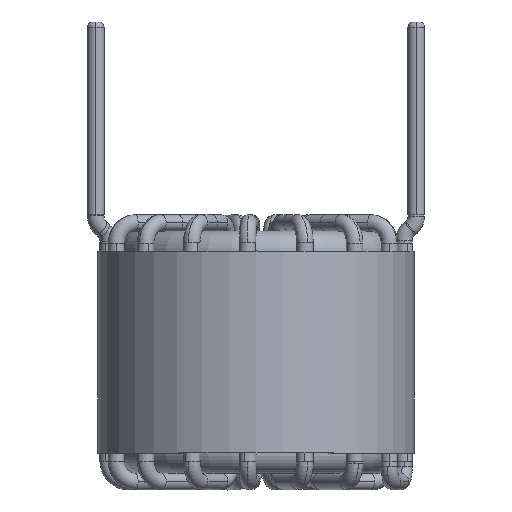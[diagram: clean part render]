
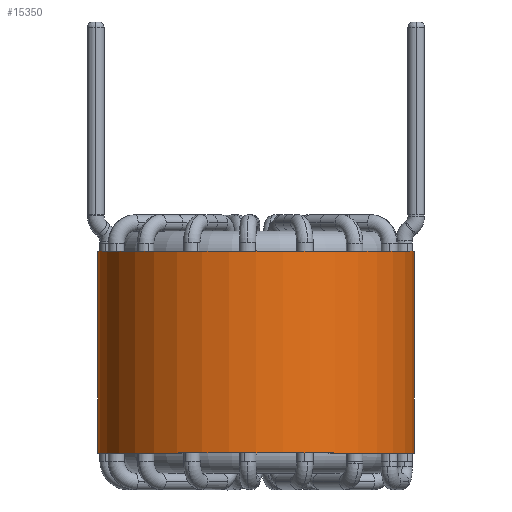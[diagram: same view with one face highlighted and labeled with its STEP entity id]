
A CAD part, top view. The second image highlights one B-rep face of the part: STEP entity #15350.
In plain terms, the highlighted cylindrical face has radius 15.68 mm (diameter 31.36 mm), a partial arc.
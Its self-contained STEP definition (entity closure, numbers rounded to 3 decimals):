
#132 = FACE_OUTER_BOUND ( 'NONE', #12714, .T. ) ;
#2018 = CYLINDRICAL_SURFACE ( 'NONE', #22719, 15.68 ) ;
#2244 = VECTOR ( 'NONE', #9147, 1000. ) ;
#3083 = EDGE_CURVE ( 'NONE', #16627, #20388, #6889, .T. ) ;
#4100 = CARTESIAN_POINT ( 'NONE',  ( 0., 0., 10. ) ) ;
#4258 = DIRECTION ( 'NONE',  ( 0., 0., 1. ) ) ;
#4950 = EDGE_CURVE ( 'NONE', #20388, #12895, #9887, .T. ) ;
#5064 = AXIS2_PLACEMENT_3D ( 'NONE', #4100, #4258, #18254 ) ;
#6467 = CARTESIAN_POINT ( 'NONE',  ( 0., 0., -10. ) ) ;
#6590 = ORIENTED_EDGE ( 'NONE', *, *, #24301, .F. ) ;
#6889 = LINE ( 'NONE', #9261, #20353 ) ;
#9147 = DIRECTION ( 'NONE',  ( 0., 0., -1. ) ) ;
#9261 = CARTESIAN_POINT ( 'NONE',  ( -15.68, 0., 10. ) ) ;
#9447 = DIRECTION ( 'NONE',  ( 0., 0., -1. ) ) ;
#9477 = DIRECTION ( 'NONE',  ( -1., 0., 0. ) ) ;
#9887 = CIRCLE ( 'NONE', #11669, 15.68 ) ;
#10778 = EDGE_CURVE ( 'NONE', #16627, #17934, #15163, .T. ) ;
#11669 = AXIS2_PLACEMENT_3D ( 'NONE', #6467, #20578, #18376 ) ;
#12714 = EDGE_LOOP ( 'NONE', ( #6590, #25849, #14164, #20935 ) ) ;
#12895 = VERTEX_POINT ( 'NONE', #13518 ) ;
#13336 = CARTESIAN_POINT ( 'NONE',  ( 0., 0., 10. ) ) ;
#13518 = CARTESIAN_POINT ( 'NONE',  ( 15.68, 0., -10. ) ) ;
#14164 = ORIENTED_EDGE ( 'NONE', *, *, #3083, .T. ) ;
#14343 = CARTESIAN_POINT ( 'NONE',  ( 15.68, 0., 10. ) ) ;
#15163 = CIRCLE ( 'NONE', #5064, 15.68 ) ;
#15350 = ADVANCED_FACE ( 'NONE', ( #132 ), #2018, .T. ) ;
#16627 = VERTEX_POINT ( 'NONE', #23642 ) ;
#17203 = CARTESIAN_POINT ( 'NONE',  ( 15.68, 0., 10. ) ) ;
#17277 = DIRECTION ( 'NONE',  ( 0., 0., -1. ) ) ;
#17934 = VERTEX_POINT ( 'NONE', #14343 ) ;
#18254 = DIRECTION ( 'NONE',  ( 1., 0., 0. ) ) ;
#18376 = DIRECTION ( 'NONE',  ( 1., 0., 0. ) ) ;
#20353 = VECTOR ( 'NONE', #9447, 1000. ) ;
#20388 = VERTEX_POINT ( 'NONE', #25415 ) ;
#20578 = DIRECTION ( 'NONE',  ( 0., 0., 1. ) ) ;
#20935 = ORIENTED_EDGE ( 'NONE', *, *, #4950, .T. ) ;
#22719 = AXIS2_PLACEMENT_3D ( 'NONE', #13336, #17277, #9477 ) ;
#23642 = CARTESIAN_POINT ( 'NONE',  ( -15.68, 0., 10. ) ) ;
#24301 = EDGE_CURVE ( 'NONE', #17934, #12895, #24890, .T. ) ;
#24890 = LINE ( 'NONE', #17203, #2244 ) ;
#25415 = CARTESIAN_POINT ( 'NONE',  ( -15.68, 0., -10. ) ) ;
#25849 = ORIENTED_EDGE ( 'NONE', *, *, #10778, .F. ) ;
